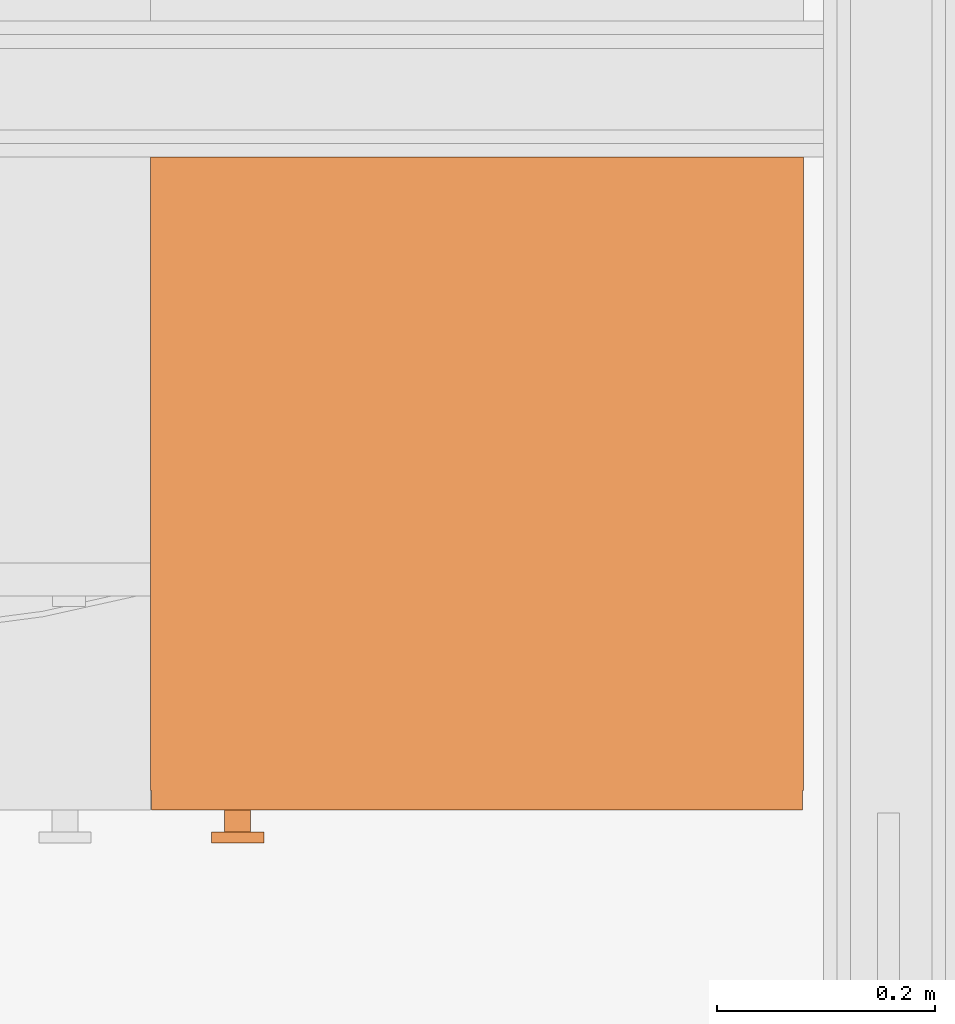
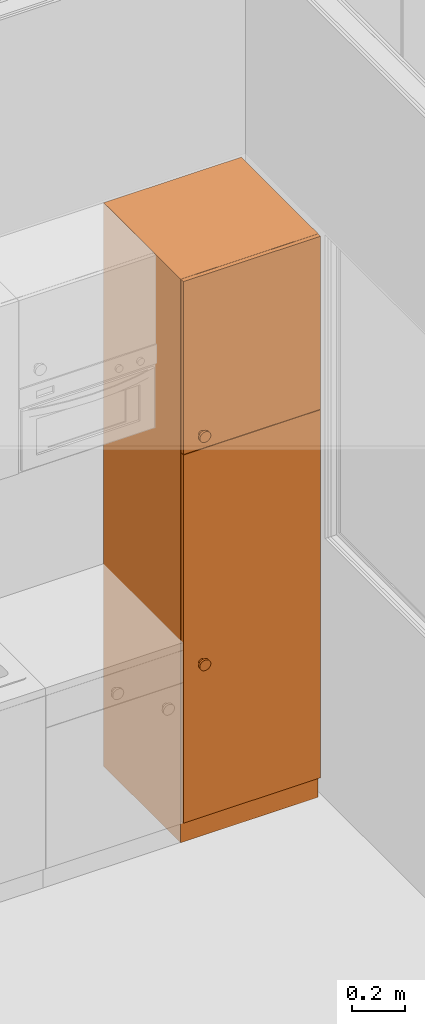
# One storey, part 147 of 165: 1 proxy.
"""IFC2X3 building model written with IfcOpenShell, lengths in millimetres."""

from ifc_helpers import new_model, entity, si_unit, converted_unit, derived_unit, money_unit, direction, frame, origin_with_axes, place, context, subcontext, project, spatial, faceted_brep, type_object, element, save


model = new_model("IFC2X3")

# Units and contexts
model_context = context("Model", 3, precision=0.01, world=origin_with_axes(), true_north=direction((0.0, 1.0)))
body_context = subcontext(model_context, "Body", "Model", "MODEL_VIEW")
ifc_project = project(units=[si_unit("LENGTHUNIT", "METRE", prefix="MILLI"), si_unit("AREAUNIT", "SQUARE_METRE"), si_unit("VOLUMEUNIT", "CUBIC_METRE"), converted_unit("PLANEANGLEUNIT", "DEGREE", entity("IfcPlaneAngleMeasure", 0.0174532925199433), si_unit("PLANEANGLEUNIT", "RADIAN"), dimensions=[0, 0, 0, 0, 0, 0, 0]), money_unit("EUR"), converted_unit("TIMEUNIT", "Year", entity("IfcTimeMeasure", 31556926.0), si_unit("TIMEUNIT", "SECOND"), dimensions=[0, 0, 1, 0, 0, 0, 0]), si_unit("MASSUNIT", "GRAM", prefix="KILO"), si_unit("THERMODYNAMICTEMPERATUREUNIT", "DEGREE_CELSIUS"), si_unit("LUMINOUSINTENSITYUNIT", "LUMEN"), si_unit("ENERGYUNIT", "JOULE", prefix="MEGA"), derived_unit("THERMALCONDUCTANCEUNIT", [(si_unit("POWERUNIT", "WATT"), 1), (si_unit("LENGTHUNIT", "METRE"), -1), (si_unit("THERMODYNAMICTEMPERATUREUNIT", "KELVIN"), -1)]), derived_unit("SPECIFICHEATCAPACITYUNIT", [(si_unit("ENERGYUNIT", "JOULE"), 1), (si_unit("MASSUNIT", "GRAM", prefix="KILO"), -1), (si_unit("THERMODYNAMICTEMPERATUREUNIT", "KELVIN"), -1)]), derived_unit("MASSDENSITYUNIT", [(si_unit("MASSUNIT", "GRAM", prefix="KILO"), 1), (si_unit("VOLUMEUNIT", "CUBIC_METRE"), -1)])], contexts=[model_context])

# Site, building, storey
site_placement = place(None, origin_with_axes())
site = spatial("IfcSite", under=ifc_project, at=site_placement, Name="Site", CompositionType="ELEMENT")
building_placement = place(site_placement, origin_with_axes())
building = spatial("IfcBuilding", under=site, at=building_placement, Name="Naam gebouw", CompositionType="ELEMENT")
storey_placement = place(building_placement, origin_with_axes())
storey = spatial("IfcBuildingStorey", under=building, at=storey_placement, Name="Begane grond", CompositionType="ELEMENT", Elevation=0.0)

# Proxy
building_element_proxy_type = type_object("IfcBuildingElementProxyType", Name="Hoge kast recht 26", PredefinedType="NOTDEFINED")
proxy_placement = place(storey_placement, frame((3232.000000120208, 11307.50070589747, 0.0), z_axis=(0.0, 0.0, 1.0), x_axis=(1.0, 0.0, 0.0)))
element("IfcBuildingElementProxy", 1, at=proxy_placement, inside=storey, type_object=building_element_proxy_type, Name="_Leeg", context=body_context, shape_type="Brep", body=[
    faceted_brep([(-18.0, -582.0, 1791.0), (-18.0, -582.0, 1809.0), (-582.0, -582.0, 1809.0), (-582.0, -582.0, 1791.0), (-18.0, -18.0, 1791.0), (-18.0, -18.0, 1809.0), (-582.0, -18.0, 1809.0), (-582.0, -18.0, 1791.0)], [[[0, 1, 2, 3]], [[4, 5, 1, 0]], [[1, 5, 6, 2]], [[3, 2, 6, 7]], [[0, 3, 7, 4]], [[7, 6, 5, 4]]]),
    faceted_brep([(-531.8176930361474, -600.0, 817.9162218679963), (-532.0000000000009, -600.0, 819.9999999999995), (-531.8176930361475, -600.0, 822.0837781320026), (-531.2763114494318, -600.0, 824.1042417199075), (-530.3923048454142, -600.0, 825.9999999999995), (-529.1925333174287, -600.0, 827.713451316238), (-527.7134513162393, -600.0, 829.1925333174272), (-526.0000000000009, -600.0, 830.3923048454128), (-524.1042417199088, -600.0, 831.2763114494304), (-522.083778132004, -600.0, 831.817693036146), (-520.0000000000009, -600.0, 831.9999999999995), (-517.9162218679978, -600.0, 831.817693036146), (-515.8957582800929, -600.0, 831.2763114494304), (-514.0000000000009, -600.0, 830.3923048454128), (-512.2865486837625, -600.0, 829.1925333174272), (-510.8074666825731, -600.0, 827.713451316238), (-509.6076951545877, -600.0, 825.9999999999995), (-508.72368855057, -600.0, 824.1042417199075), (-508.1823069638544, -600.0, 822.0837781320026), (-508.0000000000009, -600.0, 819.9999999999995), (-508.1823069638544, -600.0, 817.9162218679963), (-508.72368855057, -600.0, 815.8957582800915), (-509.6076951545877, -600.0, 813.9999999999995), (-510.8074666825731, -600.0, 812.286548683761), (-512.2865486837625, -600.0, 810.8074666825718), (-514.0000000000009, -600.0, 809.6076951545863), (-515.8957582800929, -600.0, 808.7236885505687), (-517.9162218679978, -600.0, 808.1823069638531), (-520.0000000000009, -600.0, 807.9999999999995), (-522.083778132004, -600.0, 808.1823069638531), (-524.1042417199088, -600.0, 808.7236885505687), (-526.0000000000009, -600.0, 809.6076951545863), (-527.7134513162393, -600.0, 810.8074666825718), (-529.1925333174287, -600.0, 812.286548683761), (-530.3923048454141, -600.0, 813.9999999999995), (-531.2763114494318, -600.0, 815.8957582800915), (-531.8176930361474, -620.0, 817.9162218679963), (-532.0000000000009, -620.0, 819.9999999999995), (-531.8176930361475, -620.0, 822.0837781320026), (-531.2763114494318, -620.0, 824.1042417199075), (-530.3923048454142, -620.0, 825.9999999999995), (-529.1925333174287, -620.0, 827.713451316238), (-527.7134513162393, -620.0, 829.1925333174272), (-526.0000000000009, -620.0, 830.3923048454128), (-524.1042417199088, -620.0, 831.2763114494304), (-522.083778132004, -620.0, 831.817693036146), (-520.0000000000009, -620.0, 831.9999999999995), (-517.9162218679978, -620.0, 831.817693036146), (-515.8957582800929, -620.0, 831.2763114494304), (-514.0000000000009, -620.0, 830.3923048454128), (-512.2865486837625, -620.0, 829.1925333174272), (-510.8074666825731, -620.0, 827.713451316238), (-509.6076951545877, -620.0, 825.9999999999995), (-508.72368855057, -620.0, 824.1042417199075), (-508.1823069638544, -620.0, 822.0837781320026), (-508.0000000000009, -620.0, 819.9999999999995), (-508.1823069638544, -620.0, 817.9162218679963), (-508.72368855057, -620.0, 815.8957582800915), (-509.6076951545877, -620.0, 813.9999999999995), (-510.8074666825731, -620.0, 812.286548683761), (-512.2865486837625, -620.0, 810.8074666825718), (-514.0000000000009, -620.0, 809.6076951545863), (-515.8957582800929, -620.0, 808.7236885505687), (-517.9162218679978, -620.0, 808.1823069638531), (-520.0000000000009, -620.0, 807.9999999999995), (-522.083778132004, -620.0, 808.1823069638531), (-524.1042417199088, -620.0, 808.7236885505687), (-526.0000000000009, -620.0, 809.6076951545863), (-527.7134513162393, -620.0, 810.8074666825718), (-529.1925333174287, -620.0, 812.286548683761), (-530.3923048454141, -620.0, 813.9999999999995), (-531.2763114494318, -620.0, 815.8957582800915)], [[[0, 1, 2, 3, 4, 5, 6, 7, 8, 9, 10, 11, 12, 13, 14, 15, 16, 17, 18, 19, 20, 21, 22, 23, 24, 25, 26, 27, 28, 29, 30, 31, 32, 33, 34, 35]], [[0, 36, 37, 1]], [[1, 37, 38, 2]], [[2, 38, 39, 3]], [[3, 39, 40, 4]], [[4, 40, 41, 5]], [[5, 41, 42, 6]], [[6, 42, 43, 7]], [[7, 43, 44, 8]], [[8, 44, 45, 9]], [[9, 45, 46, 10]], [[10, 46, 47, 11]], [[11, 47, 48, 12]], [[12, 48, 49, 13]], [[13, 49, 50, 14]], [[14, 50, 51, 15]], [[15, 51, 52, 16]], [[16, 52, 53, 17]], [[17, 53, 54, 18]], [[18, 54, 55, 19]], [[19, 55, 56, 20]], [[20, 56, 57, 21]], [[21, 57, 58, 22]], [[22, 58, 59, 23]], [[23, 59, 60, 24]], [[24, 60, 61, 25]], [[25, 61, 62, 26]], [[26, 62, 63, 27]], [[27, 63, 64, 28]], [[28, 64, 65, 29]], [[29, 65, 66, 30]], [[30, 66, 67, 31]], [[31, 67, 68, 32]], [[32, 68, 69, 33]], [[33, 69, 70, 34]], [[34, 70, 71, 35]], [[35, 71, 36, 0]], [[36, 71, 70, 69, 68, 67, 66, 65, 64, 63, 62, 61, 60, 59, 58, 57, 56, 55, 54, 53, 52, 51, 50, 49, 48, 47, 46, 45, 44, 43, 42, 41, 40, 39, 38, 37]]]),
    faceted_brep([(-543.6353860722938, -620.0, 815.8324437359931), (-544.0000000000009, -620.0, 819.9999999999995), (-543.6353860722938, -620.0, 824.1675562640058), (-542.5526228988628, -620.0, 828.2084834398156), (-540.7846096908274, -620.0, 831.9999999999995), (-538.3850666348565, -620.0, 835.4269026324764), (-535.4269026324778, -620.0, 838.385066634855), (-532.0000000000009, -620.0, 840.7846096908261), (-528.208483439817, -620.0, 842.5526228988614), (-524.1675562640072, -620.0, 843.6353860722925), (-520.0000000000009, -620.0, 843.9999999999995), (-515.8324437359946, -620.0, 843.6353860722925), (-511.7915165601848, -620.0, 842.5526228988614), (-508.0000000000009, -620.0, 840.7846096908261), (-504.573097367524, -620.0, 838.385066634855), (-501.6149333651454, -620.0, 835.4269026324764), (-499.2153903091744, -620.0, 831.9999999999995), (-497.4473771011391, -620.0, 828.2084834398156), (-496.3646139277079, -620.0, 824.1675562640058), (-496.000000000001, -620.0, 819.9999999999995), (-496.3646139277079, -620.0, 815.8324437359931), (-497.4473771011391, -620.0, 811.7915165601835), (-499.2153903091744, -620.0, 807.9999999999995), (-501.6149333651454, -620.0, 804.5730973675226), (-504.573097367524, -620.0, 801.6149333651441), (-508.0000000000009, -620.0, 799.215390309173), (-511.7915165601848, -620.0, 797.4473771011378), (-515.8324437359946, -620.0, 796.3646139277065), (-520.0000000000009, -620.0, 795.9999999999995), (-524.1675562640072, -620.0, 796.3646139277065), (-528.208483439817, -620.0, 797.4473771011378), (-532.0000000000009, -620.0, 799.215390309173), (-535.4269026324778, -620.0, 801.6149333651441), (-538.3850666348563, -620.0, 804.5730973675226), (-540.7846096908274, -620.0, 807.9999999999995), (-542.5526228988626, -620.0, 811.7915165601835), (-543.6353860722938, -630.0, 815.8324437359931), (-544.0000000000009, -630.0, 819.9999999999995), (-543.6353860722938, -630.0, 824.1675562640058), (-542.5526228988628, -630.0, 828.2084834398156), (-540.7846096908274, -630.0, 831.9999999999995), (-538.3850666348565, -630.0, 835.4269026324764), (-535.4269026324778, -630.0, 838.385066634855), (-532.0000000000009, -630.0, 840.7846096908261), (-528.208483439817, -630.0, 842.5526228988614), (-524.1675562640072, -630.0, 843.6353860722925), (-520.0000000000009, -630.0, 843.9999999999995), (-515.8324437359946, -630.0, 843.6353860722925), (-511.7915165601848, -630.0, 842.5526228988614), (-508.0000000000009, -630.0, 840.7846096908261), (-504.573097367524, -630.0, 838.385066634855), (-501.6149333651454, -630.0, 835.4269026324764), (-499.2153903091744, -630.0, 831.9999999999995), (-497.4473771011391, -630.0, 828.2084834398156), (-496.3646139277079, -630.0, 824.1675562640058), (-496.000000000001, -630.0, 819.9999999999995), (-496.3646139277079, -630.0, 815.8324437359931), (-497.4473771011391, -630.0, 811.7915165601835), (-499.2153903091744, -630.0, 807.9999999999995), (-501.6149333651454, -630.0, 804.5730973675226), (-504.573097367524, -630.0, 801.6149333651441), (-508.0000000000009, -630.0, 799.215390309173), (-511.7915165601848, -630.0, 797.4473771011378), (-515.8324437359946, -630.0, 796.3646139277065), (-520.0000000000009, -630.0, 795.9999999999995), (-524.1675562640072, -630.0, 796.3646139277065), (-528.208483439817, -630.0, 797.4473771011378), (-532.0000000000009, -630.0, 799.215390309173), (-535.4269026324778, -630.0, 801.6149333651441), (-538.3850666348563, -630.0, 804.5730973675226), (-540.7846096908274, -630.0, 807.9999999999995), (-542.5526228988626, -630.0, 811.7915165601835)], [[[0, 1, 2, 3, 4, 5, 6, 7, 8, 9, 10, 11, 12, 13, 14, 15, 16, 17, 18, 19, 20, 21, 22, 23, 24, 25, 26, 27, 28, 29, 30, 31, 32, 33, 34, 35]], [[0, 36, 37, 1]], [[1, 37, 38, 2]], [[2, 38, 39, 3]], [[3, 39, 40, 4]], [[4, 40, 41, 5]], [[5, 41, 42, 6]], [[6, 42, 43, 7]], [[7, 43, 44, 8]], [[8, 44, 45, 9]], [[9, 45, 46, 10]], [[10, 46, 47, 11]], [[11, 47, 48, 12]], [[12, 48, 49, 13]], [[13, 49, 50, 14]], [[14, 50, 51, 15]], [[15, 51, 52, 16]], [[16, 52, 53, 17]], [[17, 53, 54, 18]], [[18, 54, 55, 19]], [[19, 55, 56, 20]], [[20, 56, 57, 21]], [[21, 57, 58, 22]], [[22, 58, 59, 23]], [[23, 59, 60, 24]], [[24, 60, 61, 25]], [[25, 61, 62, 26]], [[26, 62, 63, 27]], [[27, 63, 64, 28]], [[28, 64, 65, 29]], [[29, 65, 66, 30]], [[30, 66, 67, 31]], [[31, 67, 68, 32]], [[32, 68, 69, 33]], [[33, 69, 70, 34]], [[34, 70, 71, 35]], [[35, 71, 36, 0]], [[36, 71, 70, 69, 68, 67, 66, 65, 64, 63, 62, 61, 60, 59, 58, 57, 56, 55, 54, 53, 52, 51, 50, 49, 48, 47, 46, 45, 44, 43, 42, 41, 40, 39, 38, 37]]]),
    faceted_brep([(-1.0, -582.0, 101.0), (-1.0, -600.0, 101.0), (-599.0, -600.0, 101.0), (-599.0, -582.0, 101.0), (-1.0, -581.9999999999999, 1799.0), (-1.0, -599.9999999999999, 1799.0), (-599.0, -599.9999999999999, 1799.0), (-599.0, -581.9999999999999, 1799.0)], [[[0, 1, 2, 3]], [[4, 5, 1, 0]], [[1, 5, 6, 2]], [[3, 2, 6, 7]], [[0, 3, 7, 4]], [[7, 6, 5, 4]]]),
    faceted_brep([(-531.8176930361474, -600.0, 1870.916221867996), (-532.0000000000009, -600.0, 1872.999999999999), (-531.8176930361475, -600.0, 1875.083778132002), (-531.2763114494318, -600.0, 1877.104241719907), (-530.3923048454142, -600.0, 1878.999999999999), (-529.1925333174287, -600.0, 1880.713451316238), (-527.7134513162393, -600.0, 1882.192533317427), (-526.0000000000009, -600.0, 1883.392304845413), (-524.1042417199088, -600.0, 1884.27631144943), (-522.083778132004, -600.0, 1884.817693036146), (-520.0000000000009, -600.0, 1884.999999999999), (-517.9162218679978, -600.0, 1884.817693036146), (-515.8957582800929, -600.0, 1884.27631144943), (-514.0000000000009, -600.0, 1883.392304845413), (-512.2865486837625, -600.0, 1882.192533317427), (-510.8074666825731, -600.0, 1880.713451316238), (-509.6076951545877, -600.0, 1878.999999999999), (-508.72368855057, -600.0, 1877.104241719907), (-508.1823069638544, -600.0, 1875.083778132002), (-508.0000000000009, -600.0, 1872.999999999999), (-508.1823069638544, -600.0, 1870.916221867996), (-508.72368855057, -600.0, 1868.895758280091), (-509.6076951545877, -600.0, 1866.999999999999), (-510.8074666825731, -600.0, 1865.286548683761), (-512.2865486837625, -600.0, 1863.807466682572), (-514.0000000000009, -600.0, 1862.607695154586), (-515.8957582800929, -600.0, 1861.723688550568), (-517.9162218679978, -600.0, 1861.182306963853), (-520.0000000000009, -600.0, 1860.999999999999), (-522.083778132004, -600.0, 1861.182306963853), (-524.1042417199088, -600.0, 1861.723688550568), (-526.0000000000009, -600.0, 1862.607695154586), (-527.7134513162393, -600.0, 1863.807466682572), (-529.1925333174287, -600.0, 1865.286548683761), (-530.3923048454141, -600.0, 1866.999999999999), (-531.2763114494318, -600.0, 1868.895758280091), (-531.8176930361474, -620.0, 1870.916221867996), (-532.0000000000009, -620.0, 1872.999999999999), (-531.8176930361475, -620.0, 1875.083778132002), (-531.2763114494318, -620.0, 1877.104241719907), (-530.3923048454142, -620.0, 1878.999999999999), (-529.1925333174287, -620.0, 1880.713451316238), (-527.7134513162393, -620.0, 1882.192533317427), (-526.0000000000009, -620.0, 1883.392304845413), (-524.1042417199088, -620.0, 1884.27631144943), (-522.083778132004, -620.0, 1884.817693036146), (-520.0000000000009, -620.0, 1884.999999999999), (-517.9162218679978, -620.0, 1884.817693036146), (-515.8957582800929, -620.0, 1884.27631144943), (-514.0000000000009, -620.0, 1883.392304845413), (-512.2865486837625, -620.0, 1882.192533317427), (-510.8074666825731, -620.0, 1880.713451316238), (-509.6076951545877, -620.0, 1878.999999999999), (-508.72368855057, -620.0, 1877.104241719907), (-508.1823069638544, -620.0, 1875.083778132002), (-508.0000000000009, -620.0, 1872.999999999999), (-508.1823069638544, -620.0, 1870.916221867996), (-508.72368855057, -620.0, 1868.895758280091), (-509.6076951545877, -620.0, 1866.999999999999), (-510.8074666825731, -620.0, 1865.286548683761), (-512.2865486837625, -620.0, 1863.807466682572), (-514.0000000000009, -620.0, 1862.607695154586), (-515.8957582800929, -620.0, 1861.723688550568), (-517.9162218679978, -620.0, 1861.182306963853), (-520.0000000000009, -620.0, 1860.999999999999), (-522.083778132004, -620.0, 1861.182306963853), (-524.1042417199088, -620.0, 1861.723688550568), (-526.0000000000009, -620.0, 1862.607695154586), (-527.7134513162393, -620.0, 1863.807466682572), (-529.1925333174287, -620.0, 1865.286548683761), (-530.3923048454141, -620.0, 1866.999999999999), (-531.2763114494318, -620.0, 1868.895758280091)], [[[0, 1, 2, 3, 4, 5, 6, 7, 8, 9, 10, 11, 12, 13, 14, 15, 16, 17, 18, 19, 20, 21, 22, 23, 24, 25, 26, 27, 28, 29, 30, 31, 32, 33, 34, 35]], [[0, 36, 37, 1]], [[1, 37, 38, 2]], [[2, 38, 39, 3]], [[3, 39, 40, 4]], [[4, 40, 41, 5]], [[5, 41, 42, 6]], [[6, 42, 43, 7]], [[7, 43, 44, 8]], [[8, 44, 45, 9]], [[9, 45, 46, 10]], [[10, 46, 47, 11]], [[11, 47, 48, 12]], [[12, 48, 49, 13]], [[13, 49, 50, 14]], [[14, 50, 51, 15]], [[15, 51, 52, 16]], [[16, 52, 53, 17]], [[17, 53, 54, 18]], [[18, 54, 55, 19]], [[19, 55, 56, 20]], [[20, 56, 57, 21]], [[21, 57, 58, 22]], [[22, 58, 59, 23]], [[23, 59, 60, 24]], [[24, 60, 61, 25]], [[25, 61, 62, 26]], [[26, 62, 63, 27]], [[27, 63, 64, 28]], [[28, 64, 65, 29]], [[29, 65, 66, 30]], [[30, 66, 67, 31]], [[31, 67, 68, 32]], [[32, 68, 69, 33]], [[33, 69, 70, 34]], [[34, 70, 71, 35]], [[35, 71, 36, 0]], [[36, 71, 70, 69, 68, 67, 66, 65, 64, 63, 62, 61, 60, 59, 58, 57, 56, 55, 54, 53, 52, 51, 50, 49, 48, 47, 46, 45, 44, 43, 42, 41, 40, 39, 38, 37]]]),
    faceted_brep([(-543.6353860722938, -620.0, 1868.832443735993), (-544.0000000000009, -620.0, 1872.999999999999), (-543.6353860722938, -620.0, 1877.167556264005), (-542.5526228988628, -620.0, 1881.208483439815), (-540.7846096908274, -620.0, 1884.999999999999), (-538.3850666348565, -620.0, 1888.426902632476), (-535.4269026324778, -620.0, 1891.385066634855), (-532.0000000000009, -620.0, 1893.784609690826), (-528.208483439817, -620.0, 1895.552622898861), (-524.1675562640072, -620.0, 1896.635386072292), (-520.0000000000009, -620.0, 1896.999999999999), (-515.8324437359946, -620.0, 1896.635386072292), (-511.7915165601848, -620.0, 1895.552622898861), (-508.0000000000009, -620.0, 1893.784609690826), (-504.573097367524, -620.0, 1891.385066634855), (-501.6149333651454, -620.0, 1888.426902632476), (-499.2153903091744, -620.0, 1884.999999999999), (-497.4473771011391, -620.0, 1881.208483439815), (-496.3646139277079, -620.0, 1877.167556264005), (-496.000000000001, -620.0, 1872.999999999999), (-496.3646139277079, -620.0, 1868.832443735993), (-497.4473771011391, -620.0, 1864.791516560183), (-499.2153903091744, -620.0, 1860.999999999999), (-501.6149333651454, -620.0, 1857.573097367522), (-504.573097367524, -620.0, 1854.614933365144), (-508.0000000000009, -620.0, 1852.215390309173), (-511.7915165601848, -620.0, 1850.447377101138), (-515.8324437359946, -620.0, 1849.364613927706), (-520.0000000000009, -620.0, 1848.999999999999), (-524.1675562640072, -620.0, 1849.364613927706), (-528.208483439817, -620.0, 1850.447377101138), (-532.0000000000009, -620.0, 1852.215390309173), (-535.4269026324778, -620.0, 1854.614933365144), (-538.3850666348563, -620.0, 1857.573097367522), (-540.7846096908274, -620.0, 1860.999999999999), (-542.5526228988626, -620.0, 1864.791516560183), (-543.6353860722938, -630.0, 1868.832443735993), (-544.0000000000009, -630.0, 1872.999999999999), (-543.6353860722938, -630.0, 1877.167556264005), (-542.5526228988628, -630.0, 1881.208483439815), (-540.7846096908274, -630.0, 1884.999999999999), (-538.3850666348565, -630.0, 1888.426902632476), (-535.4269026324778, -630.0, 1891.385066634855), (-532.0000000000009, -630.0, 1893.784609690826), (-528.208483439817, -630.0, 1895.552622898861), (-524.1675562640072, -630.0, 1896.635386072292), (-520.0000000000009, -630.0, 1896.999999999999), (-515.8324437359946, -630.0, 1896.635386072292), (-511.7915165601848, -630.0, 1895.552622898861), (-508.0000000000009, -630.0, 1893.784609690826), (-504.573097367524, -630.0, 1891.385066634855), (-501.6149333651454, -630.0, 1888.426902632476), (-499.2153903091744, -630.0, 1884.999999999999), (-497.4473771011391, -630.0, 1881.208483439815), (-496.3646139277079, -630.0, 1877.167556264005), (-496.000000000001, -630.0, 1872.999999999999), (-496.3646139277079, -630.0, 1868.832443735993), (-497.4473771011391, -630.0, 1864.791516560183), (-499.2153903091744, -630.0, 1860.999999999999), (-501.6149333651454, -630.0, 1857.573097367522), (-504.573097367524, -630.0, 1854.614933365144), (-508.0000000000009, -630.0, 1852.215390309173), (-511.7915165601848, -630.0, 1850.447377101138), (-515.8324437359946, -630.0, 1849.364613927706), (-520.0000000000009, -630.0, 1848.999999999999), (-524.1675562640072, -630.0, 1849.364613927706), (-528.208483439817, -630.0, 1850.447377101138), (-532.0000000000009, -630.0, 1852.215390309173), (-535.4269026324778, -630.0, 1854.614933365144), (-538.3850666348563, -630.0, 1857.573097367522), (-540.7846096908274, -630.0, 1860.999999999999), (-542.5526228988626, -630.0, 1864.791516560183)], [[[0, 1, 2, 3, 4, 5, 6, 7, 8, 9, 10, 11, 12, 13, 14, 15, 16, 17, 18, 19, 20, 21, 22, 23, 24, 25, 26, 27, 28, 29, 30, 31, 32, 33, 34, 35]], [[0, 36, 37, 1]], [[1, 37, 38, 2]], [[2, 38, 39, 3]], [[3, 39, 40, 4]], [[4, 40, 41, 5]], [[5, 41, 42, 6]], [[6, 42, 43, 7]], [[7, 43, 44, 8]], [[8, 44, 45, 9]], [[9, 45, 46, 10]], [[10, 46, 47, 11]], [[11, 47, 48, 12]], [[12, 48, 49, 13]], [[13, 49, 50, 14]], [[14, 50, 51, 15]], [[15, 51, 52, 16]], [[16, 52, 53, 17]], [[17, 53, 54, 18]], [[18, 54, 55, 19]], [[19, 55, 56, 20]], [[20, 56, 57, 21]], [[21, 57, 58, 22]], [[22, 58, 59, 23]], [[23, 59, 60, 24]], [[24, 60, 61, 25]], [[25, 61, 62, 26]], [[26, 62, 63, 27]], [[27, 63, 64, 28]], [[28, 64, 65, 29]], [[29, 65, 66, 30]], [[30, 66, 67, 31]], [[31, 67, 68, 32]], [[32, 68, 69, 33]], [[33, 69, 70, 34]], [[34, 70, 71, 35]], [[35, 71, 36, 0]], [[36, 71, 70, 69, 68, 67, 66, 65, 64, 63, 62, 61, 60, 59, 58, 57, 56, 55, 54, 53, 52, 51, 50, 49, 48, 47, 46, 45, 44, 43, 42, 41, 40, 39, 38, 37]]]),
    faceted_brep([(-1.0, -582.0, 1801.0), (-1.0, -600.0, 1801.0), (-599.0, -600.0, 1801.0), (-599.0, -582.0, 1801.0), (-1.0, -582.0, 2599.0), (-1.0, -599.9999999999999, 2599.0), (-599.0, -599.9999999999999, 2599.0), (-599.0, -582.0, 2599.0)], [[[0, 1, 2, 3]], [[4, 5, 1, 0]], [[1, 5, 6, 2]], [[3, 2, 6, 7]], [[0, 3, 7, 4]], [[7, 6, 5, 4]]]),
    faceted_brep([(-18.0, -582.0, 100.0), (-18.0, -582.0, 118.0), (-582.0, -582.0, 118.0), (-582.0, -582.0, 100.0), (-18.0, 0.0, 100.0), (-18.0, 0.0, 118.0), (-582.0, 0.0, 118.0), (-582.0, 0.0, 100.0)], [[[0, 1, 2, 3]], [[4, 5, 1, 0]], [[1, 5, 6, 2]], [[3, 2, 6, 7]], [[0, 3, 7, 4]], [[7, 6, 5, 4]]]),
    faceted_brep([(-18.0, -582.0, 2582.0), (-18.0, -582.0, 2600.0), (-582.0, -582.0, 2600.0), (-582.0, -582.0, 2582.0), (-18.0, 0.0, 2582.0), (-18.0, 0.0, 2600.0), (-582.0, 0.0, 2600.0), (-582.0, 0.0, 2582.0)], [[[0, 1, 2, 3]], [[4, 5, 1, 0]], [[1, 5, 6, 2]], [[3, 2, 6, 7]], [[0, 3, 7, 4]], [[7, 6, 5, 4]]]),
    faceted_brep([(0.0, 0.0, 100.0), (0.0, 0.0, 2600.0), (0.0, -582.0, 2600.0), (0.0, -582.0, 100.0), (-18.0, 0.0, 100.0), (-18.0, 0.0, 2600.0), (-18.0, -582.0, 2600.0), (-18.0, -582.0, 100.0)], [[[0, 1, 2, 3]], [[4, 5, 1, 0]], [[1, 5, 6, 2]], [[3, 2, 6, 7]], [[0, 3, 7, 4]], [[7, 6, 5, 4]]]),
    faceted_brep([(-600.0, -582.0, 100.0), (-600.0, -582.0, 2600.0), (-600.0, 0.0, 2600.0), (-600.0, 0.0, 100.0), (-582.0, -582.0, 100.0), (-582.0, -582.0, 2600.0), (-582.0, 0.0, 2600.0), (-582.0, 0.0, 100.0)], [[[0, 1, 2, 3]], [[4, 5, 1, 0]], [[1, 5, 6, 2]], [[3, 2, 6, 7]], [[0, 3, 7, 4]], [[7, 6, 5, 4]]]),
    faceted_brep([(-582.0, -9.0, 118.0), (-582.0, -9.0, 2582.0), (-18.00000000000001, -9.0, 2582.0), (-18.00000000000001, -9.0, 118.0), (-582.0, -18.0, 118.0), (-582.0, -18.0, 2582.0), (-18.00000000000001, -18.0, 2582.0), (-18.00000000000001, -18.0, 118.0)], [[[0, 1, 2, 3]], [[4, 5, 1, 0]], [[1, 5, 6, 2]], [[3, 2, 6, 7]], [[0, 3, 7, 4]], [[7, 6, 5, 4]]]),
    faceted_brep([(0.0, -582.0, 0.0), (0.0, -582.0, 100.0), (-600.0, -582.0, 100.0), (-600.0, -582.0, 0.0), (0.0, 0.0, 0.0), (0.0, 0.0, 100.0), (-600.0, 0.0, 100.0), (-600.0, 0.0, 0.0)], [[[0, 1, 2, 3]], [[4, 5, 1, 0]], [[1, 5, 6, 2]], [[3, 2, 6, 7]], [[0, 3, 7, 4]], [[7, 6, 5, 4]]]),
])

save(model, "model.ifc")
